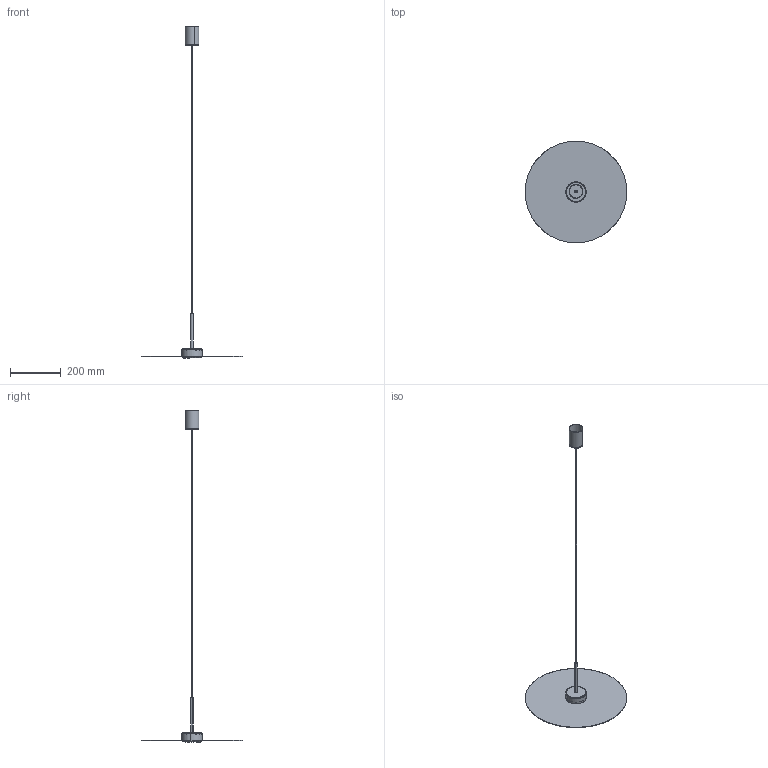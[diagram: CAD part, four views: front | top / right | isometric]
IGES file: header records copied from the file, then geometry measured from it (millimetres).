
Start section: SolidWorks IGES file using analytic representation for surfaces
Global section: file name: C:\Users\anna.bielnik\Desktop\SIMONE pm\SIMONE\CZ 0022  330x330x1200 pm.IGS; native system: SolidWorks 2023; preprocessor: SolidWorks 2023; author: anna.bielnik; date: 240827.121248; units: millimetre
Bounding box: 400 x 400 x 1305.39 mm (x, y, z)
Surface area: 348175.4 mm2 (no closed solid volume)
Topology: 0 solids, 0 shells, 61 faces, 1768 edges, 1768 vertices
Faces by surface type: revolution 32, bspline 29
